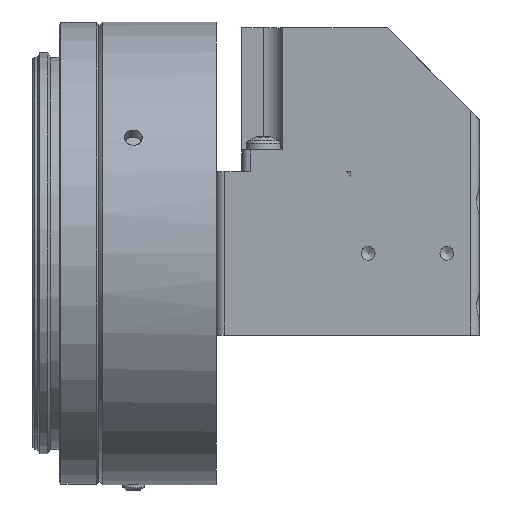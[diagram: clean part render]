
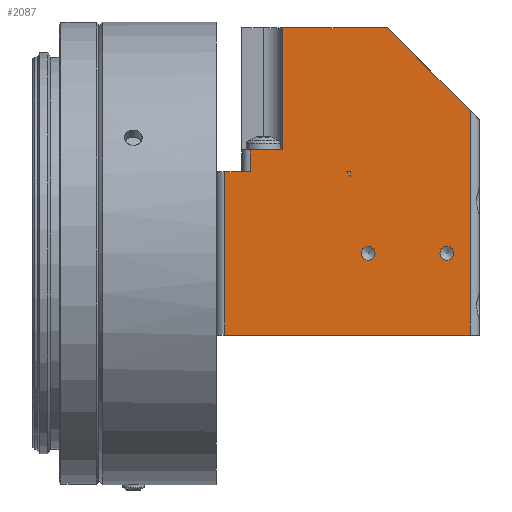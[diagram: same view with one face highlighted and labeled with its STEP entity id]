
A CAD part, left-side view. The second image highlights one B-rep face of the part: STEP entity #2087.
In plain terms, the highlighted planar face has unit normal (-1, 0, 0).
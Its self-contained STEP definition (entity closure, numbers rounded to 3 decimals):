
#420=LINE('',#12630,#987);
#505=LINE('',#12866,#1072);
#587=LINE('',#13350,#1154);
#591=LINE('',#13360,#1158);
#592=LINE('',#13362,#1159);
#593=LINE('',#13363,#1160);
#594=LINE('',#13365,#1161);
#595=LINE('',#13367,#1162);
#596=LINE('',#13369,#1163);
#597=LINE('',#13371,#1164);
#598=LINE('',#13372,#1165);
#599=LINE('',#13374,#1166);
#987=VECTOR('',#9298,1.);
#1072=VECTOR('',#9479,1.);
#1154=VECTOR('',#9769,1.);
#1158=VECTOR('',#9781,1.);
#1159=VECTOR('',#9782,1.);
#1160=VECTOR('',#9783,1.);
#1161=VECTOR('',#9784,1.);
#1162=VECTOR('',#9785,1.);
#1163=VECTOR('',#9786,1.);
#1164=VECTOR('',#9787,1.);
#1165=VECTOR('',#9788,1.);
#1166=VECTOR('',#9789,1.);
#1729=FACE_BOUND('',#3204,.T.);
#1730=FACE_BOUND('',#3205,.T.);
#1731=FACE_BOUND('',#3206,.T.);
#2087=ADVANCED_FACE('',(#2717,#1729,#1730,#1731),#2398,.F.);
#2398=PLANE('',#8047);
#2717=FACE_OUTER_BOUND('',#3203,.T.);
#3203=EDGE_LOOP('',(#4717,#4718,#4719,#4720,#4721,#4722,#4723,#4724,#4725));
#3204=EDGE_LOOP('',(#4726,#4727,#4728));
#3205=EDGE_LOOP('',(#4729));
#3206=EDGE_LOOP('',(#4730));
#4717=ORIENTED_EDGE('',*,*,#6883,.T.);
#4718=ORIENTED_EDGE('',*,*,#6617,.T.);
#4719=ORIENTED_EDGE('',*,*,#6884,.T.);
#4720=ORIENTED_EDGE('',*,*,#6878,.F.);
#4721=ORIENTED_EDGE('',*,*,#6885,.T.);
#4722=ORIENTED_EDGE('',*,*,#6886,.T.);
#4723=ORIENTED_EDGE('',*,*,#6887,.F.);
#4724=ORIENTED_EDGE('',*,*,#6888,.T.);
#4725=ORIENTED_EDGE('',*,*,#6889,.T.);
#4726=ORIENTED_EDGE('',*,*,#6731,.T.);
#4727=ORIENTED_EDGE('',*,*,#6890,.F.);
#4728=ORIENTED_EDGE('',*,*,#6891,.F.);
#4729=ORIENTED_EDGE('',*,*,#6892,.T.);
#4730=ORIENTED_EDGE('',*,*,#6893,.T.);
#5763=VERTEX_POINT('',#12631);
#5764=VERTEX_POINT('',#12632);
#5863=VERTEX_POINT('',#12861);
#5865=VERTEX_POINT('',#12865);
#5969=VERTEX_POINT('',#13349);
#5970=VERTEX_POINT('',#13351);
#5972=VERTEX_POINT('',#13361);
#5973=VERTEX_POINT('',#13364);
#5974=VERTEX_POINT('',#13366);
#5975=VERTEX_POINT('',#13368);
#5976=VERTEX_POINT('',#13370);
#5977=VERTEX_POINT('',#13373);
#5978=VERTEX_POINT('',#13376);
#5979=VERTEX_POINT('',#13378);
#6617=EDGE_CURVE('',#5763,#5764,#420,.T.);
#6731=EDGE_CURVE('',#5863,#5865,#505,.T.);
#6878=EDGE_CURVE('',#5969,#5970,#587,.T.);
#6883=EDGE_CURVE('',#5972,#5763,#591,.T.);
#6884=EDGE_CURVE('',#5764,#5970,#592,.T.);
#6885=EDGE_CURVE('',#5969,#5973,#593,.T.);
#6886=EDGE_CURVE('',#5973,#5974,#594,.T.);
#6887=EDGE_CURVE('',#5975,#5974,#595,.T.);
#6888=EDGE_CURVE('',#5975,#5976,#596,.T.);
#6889=EDGE_CURVE('',#5976,#5972,#597,.T.);
#6890=EDGE_CURVE('',#5977,#5865,#598,.T.);
#6891=EDGE_CURVE('',#5863,#5977,#599,.T.);
#6892=EDGE_CURVE('',#5978,#5978,#7419,.T.);
#6893=EDGE_CURVE('',#5979,#5979,#7420,.T.);
#7419=CIRCLE('',#8045,0.784);
#7420=CIRCLE('',#8046,0.784);
#8045=AXIS2_PLACEMENT_3D('',#13375,#9790,#9791);
#8046=AXIS2_PLACEMENT_3D('',#13377,#9792,#9793);
#8047=AXIS2_PLACEMENT_3D('',#13379,#9794,#9795);
#9298=DIRECTION('',(0.,1.,0.));
#9479=DIRECTION('',(0.,0.707,0.707));
#9769=DIRECTION('',(0.,1.,0.));
#9781=DIRECTION('',(0.,0.,-1.));
#9782=DIRECTION('',(0.,0.,-1.));
#9783=DIRECTION('',(0.,0.,1.));
#9784=DIRECTION('',(0.,0.707,0.707));
#9785=DIRECTION('',(0.,-1.,0.));
#9786=DIRECTION('',(0.,0.,-1.));
#9787=DIRECTION('',(0.,1.,0.));
#9788=DIRECTION('',(0.,1.,0.));
#9789=DIRECTION('',(0.,0.,1.));
#9790=DIRECTION('',(1.,0.,0.));
#9791=DIRECTION('',(0.,-1.,0.));
#9792=DIRECTION('',(1.,0.,0.));
#9793=DIRECTION('',(0.,-1.,0.));
#9794=DIRECTION('',(1.,0.,0.));
#9795=DIRECTION('',(0.,-1.,0.));
#12630=CARTESIAN_POINT('',(-36.,46.55,9.35));
#12631=CARTESIAN_POINT('',(-36.,58.05,9.35));
#12632=CARTESIAN_POINT('',(-36.,60.96,9.35));
#12861=CARTESIAN_POINT('',(-36.,46.55,8.85));
#12865=CARTESIAN_POINT('',(-36.,47.05,9.35));
#12866=CARTESIAN_POINT('',(-36.,46.55,8.85));
#13349=CARTESIAN_POINT('',(-36.,32.85,-9.35));
#13350=CARTESIAN_POINT('',(-36.,46.55,-9.35));
#13351=CARTESIAN_POINT('',(-36.,60.96,-9.35));
#13360=CARTESIAN_POINT('',(-36.,58.05,9.35));
#13361=CARTESIAN_POINT('',(-36.,58.05,11.85));
#13362=CARTESIAN_POINT('',(-36.,60.96,-9.35));
#13363=CARTESIAN_POINT('',(-36.,32.85,15.35));
#13364=CARTESIAN_POINT('',(-36.,32.85,16.35));
#13365=CARTESIAN_POINT('',(-36.,42.35,25.85));
#13366=CARTESIAN_POINT('',(-36.,42.35,25.85));
#13367=CARTESIAN_POINT('',(-36.,59.05,25.85));
#13368=CARTESIAN_POINT('',(-36.,54.35,25.85));
#13369=CARTESIAN_POINT('',(-36.,54.35,9.35));
#13370=CARTESIAN_POINT('',(-36.,54.35,11.85));
#13371=CARTESIAN_POINT('',(-36.,59.05,11.85));
#13372=CARTESIAN_POINT('',(-36.,46.55,9.35));
#13373=CARTESIAN_POINT('',(-36.,46.55,9.35));
#13374=CARTESIAN_POINT('',(-36.,46.55,-9.35));
#13375=CARTESIAN_POINT('',(-36.,44.55,0.));
#13376=CARTESIAN_POINT('',(-36.,43.767,0.));
#13377=CARTESIAN_POINT('',(-36.,35.55,0.));
#13378=CARTESIAN_POINT('',(-36.,34.767,0.));
#13379=CARTESIAN_POINT('',(-36.,46.55,-9.35));
